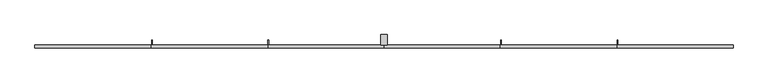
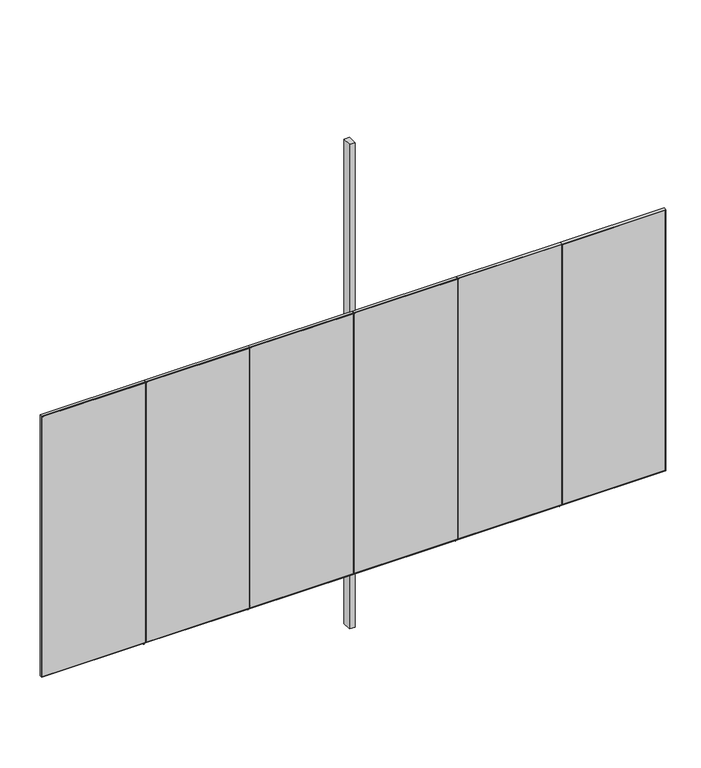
"""IFC4 building model written with IfcOpenShell, lengths in millimetres: furniture geometry, H105 Reja 6 módulos : H105.2 Reja 6 módulos 690x315 CANCHA."""

from ifc_helpers import new_model, si_unit, frame, origin, place, context, project, spatial, polyline, outline, extrude, source, transform, mapped, element, save


def furniture_9b45714c(model_context):
    return source(origin(), model_context, "Body", "SweptSolid", [
        extrude(outline(polyline([(1224.7003264, -468.0), (1224.7003264, -568.0), (1164.7003264, -568.0), (1164.7003264, -468.0), (1224.7003264, -468.0)])), frame((0.0, 0.0, -600.0), z_axis=(0.0, 0.0, 1.0), x_axis=(1.0, 0.0, 0.0)), (0.0, 0.0, 1.0), 5660.0),
        extrude(outline(polyline([(3100.0, 3494.7003264), (3100.0, 2344.7003264), (50.0, 2344.7003264), (50.0, 3494.7003264), (3100.0, 3494.7003264)]), holes=[polyline([(3093.0, 3491.2003264), (57.0, 3491.2003264), (57.0, 2348.2003264), (3093.0, 2348.2003264), (3093.0, 3491.2003264)])]), frame((0.0, -600.0, 0.0), z_axis=(0.0, 1.0, 0.0), x_axis=(0.0, 0.0, 1.0)), (0.0, 0.0, 1.0), 32.0),
        extrude(outline(polyline([(3491.2003264, -600.0), (2348.2003264, -600.0), (2348.2003264, -597.0), (3491.2003264, -597.0), (3491.2003264, -600.0)])), frame((0.0, 0.0, 57.0), z_axis=(0.0, 0.0, 1.0), x_axis=(1.0, 0.0, 0.0)), (0.0, 0.0, 1.0), 3036.0),
        extrude(outline(polyline([(3100.0, 2344.7003264), (3100.0, 1194.7003264), (50.0, 1194.7003264), (50.0, 2344.7003264), (3100.0, 2344.7003264)]), holes=[polyline([(3093.0, 2341.2003264), (57.0, 2341.2003264), (57.0, 1198.2003264), (3093.0, 1198.2003264), (3093.0, 2341.2003264)])]), frame((0.0, -600.0, 0.0), z_axis=(0.0, 1.0, 0.0), x_axis=(0.0, 0.0, 1.0)), (0.0, 0.0, 1.0), 32.0),
        extrude(outline(polyline([(2341.2003264, -600.0), (1198.2003264, -600.0), (1198.2003264, -597.0), (2341.2003264, -597.0), (2341.2003264, -600.0)])), frame((0.0, 0.0, 57.0), z_axis=(0.0, 0.0, 1.0), x_axis=(1.0, 0.0, 0.0)), (0.0, 0.0, 1.0), 3036.0),
        extrude(outline(polyline([(3100.0, 44.7003264), (3100.0, -1105.2996736), (50.0, -1105.2996736), (50.0, 44.7003264), (3100.0, 44.7003264)]), holes=[polyline([(3093.0, 41.2003264), (57.0, 41.2003264), (57.0, -1101.7996736), (3093.0, -1101.7996736), (3093.0, 41.2003264)])]), frame((0.0, -600.0, 0.0), z_axis=(0.0, 1.0, 0.0), x_axis=(0.0, 0.0, 1.0)), (0.0, 0.0, 1.0), 32.0),
        extrude(outline(polyline([(4637.7003264, -600.0), (3498.2003264, -600.0), (3498.2003264, -597.0), (4637.7003264, -597.0), (4637.7003264, -600.0)])), frame((0.0, 0.0, 57.0), z_axis=(0.0, 0.0, 1.0), x_axis=(1.0, 0.0, 0.0)), (0.0, 0.0, 1.0), 3036.0),
        extrude(outline(polyline([(3100.0, 4644.7003264), (3100.0, 3494.7003264), (50.0, 3494.7003264), (50.0, 4644.7003264), (3100.0, 4644.7003264)]), holes=[polyline([(3093.0, 4637.7003264), (57.0, 4637.7003264), (57.0, 3498.2003264), (3093.0, 3498.2003264), (3093.0, 4637.7003264)])]), frame((0.0, -600.0, 0.0), z_axis=(0.0, 1.0, 0.0), x_axis=(0.0, 0.0, 1.0)), (0.0, 0.0, 1.0), 32.0),
        extrude(outline(polyline([(1191.2003264, -600.0), (48.2003264, -600.0), (48.2003264, -597.0), (1191.2003264, -597.0), (1191.2003264, -600.0)])), frame((0.0, 0.0, 57.0), z_axis=(0.0, 0.0, 1.0), x_axis=(1.0, 0.0, 0.0)), (0.0, 0.0, 1.0), 3036.0),
        extrude(outline(polyline([(3100.0, 1194.7003264), (3100.0, 44.7003264), (50.0, 44.7003264), (50.0, 1194.7003264), (3100.0, 1194.7003264)]), holes=[polyline([(3093.0, 1191.2003264), (57.0, 1191.2003264), (57.0, 48.2003264), (3093.0, 48.2003264), (3093.0, 1191.2003264)])]), frame((0.0, -600.0, 0.0), z_axis=(0.0, 1.0, 0.0), x_axis=(0.0, 0.0, 1.0)), (0.0, 0.0, 1.0), 32.0),
        extrude(outline(polyline([(41.2003264, -600.0), (-1101.7996736, -600.0), (-1101.7996736, -597.0), (41.2003264, -597.0), (41.2003264, -600.0)])), frame((0.0, 0.0, 57.0), z_axis=(0.0, 0.0, 1.0), x_axis=(1.0, 0.0, 0.0)), (0.0, 0.0, 1.0), 3036.0),
        extrude(outline(polyline([(-1108.7996736, -600.0), (-2248.2996736, -600.0), (-2248.2996736, -597.0), (-1108.7996736, -597.0), (-1108.7996736, -600.0)])), frame((0.0, 0.0, 57.0), z_axis=(0.0, 0.0, 1.0), x_axis=(1.0, 0.0, 0.0)), (0.0, 0.0, 1.0), 3036.0),
        extrude(outline(polyline([(3100.0, -1105.2996736), (3100.0, -2255.2996736), (50.0, -2255.2996736), (50.0, -1105.2996736), (3100.0, -1105.2996736)]), holes=[polyline([(3093.0, -1108.7996736), (57.0, -1108.7996736), (57.0, -2248.2996736), (3093.0, -2248.2996736), (3093.0, -1108.7996736)])]), frame((0.0, -600.0, 0.0), z_axis=(0.0, 1.0, 0.0), x_axis=(0.0, 0.0, 1.0)), (0.0, 0.0, 1.0), 32.0),
        extrude(outline(polyline([(-522.0, 82.0), (-522.0, 0.0), (-547.0, 0.0), (-547.0, 57.0), (-597.0, 57.0), (-597.0, 82.0), (-522.0, 82.0)])), frame((2348.2003264, 0.0, 0.0), z_axis=(1.0, 0.0, 0.0), x_axis=(0.0, 1.0, 0.0)), (0.0, 0.0, 1.0), 7.0),
        extrude(outline(polyline([(-522.0, 82.0), (-522.0, 0.0), (-547.0, 0.0), (-547.0, 57.0), (-597.0, 57.0), (-597.0, 82.0), (-522.0, 82.0)])), frame((3498.2003264, 0.0, 0.0), z_axis=(1.0, 0.0, 0.0), x_axis=(0.0, 1.0, 0.0)), (0.0, 0.0, 1.0), 7.0),
        extrude(outline(polyline([(-522.0, 82.0), (-522.0, 0.0), (-547.0, 0.0), (-547.0, 57.0), (-597.0, 57.0), (-597.0, 82.0), (-522.0, 82.0)])), frame((-1101.7996736, 0.0, 0.0), z_axis=(1.0, 0.0, 0.0), x_axis=(0.0, 1.0, 0.0)), (0.0, 0.0, 1.0), 7.0),
        extrude(outline(polyline([(-522.0, 82.0), (-522.0, 0.0), (-547.0, 0.0), (-547.0, 57.0), (-597.0, 57.0), (-597.0, 82.0), (-522.0, 82.0)])), frame((48.2003264, 0.0, 0.0), z_axis=(1.0, 0.0, 0.0), x_axis=(0.0, 1.0, 0.0)), (0.0, 0.0, 1.0), 7.0),
    ])


if __name__ == "__main__":
    model = new_model("IFC4")
    model_context = context("Model", 3, world=origin())
    ifc_project = project(units=[si_unit("LENGTHUNIT", "METRE", prefix="MILLI")], contexts=[model_context])
    site = spatial("IfcSite", under=ifc_project)
    building = spatial("IfcBuilding", under=site)
    placement = place(None, origin())
    furniture_shape = furniture_9b45714c(model_context)
    element("IfcFurniture", 1, ObjectType="H105 Reja 6 módulos : H105.2 Reja 6 módulos 690x315 CANCHA", at=placement, inside=building, context=model_context, shape_type="MappedRepresentation", body=[
        mapped(furniture_shape, transform((0.0, 0.0, 0.0), x_axis=(1.0, 0.0, 0.0), y_axis=(0.0, 1.0, 0.0), z_axis=(0.0, 0.0, 1.0))),
    ])
    save(model, "model.ifc")
